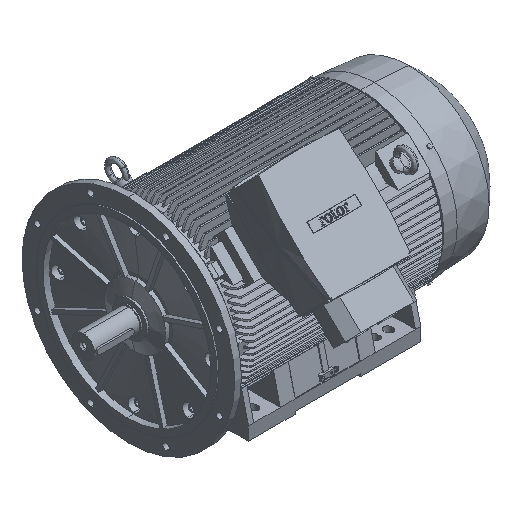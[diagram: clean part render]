
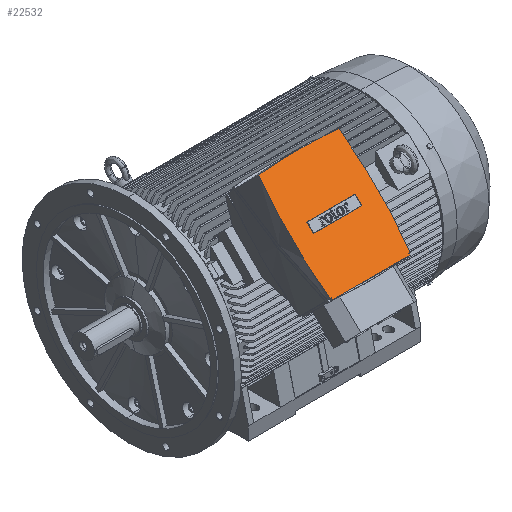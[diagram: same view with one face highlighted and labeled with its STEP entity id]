
A CAD part, isometric view. The second image highlights one B-rep face of the part: STEP entity #22532.
In plain terms, the highlighted planar face has unit normal (0, -0.707, 0.707).
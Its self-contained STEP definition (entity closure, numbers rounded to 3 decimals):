
#247 = VERTEX_POINT ( 'NONE', #4528 ) ;
#397 = DIRECTION ( 'NONE',  ( 0., 0.707, 0.707 ) ) ;
#435 = EDGE_CURVE ( 'NONE', #68464, #69646, #15696, .T. ) ;
#609 = VECTOR ( 'NONE', #70961, 1000. ) ;
#1436 = LINE ( 'NONE', #58119, #23227 ) ;
#1571 = CARTESIAN_POINT ( 'NONE',  ( 155., -416.486, 382.545 ) ) ;
#2633 = ORIENTED_EDGE ( 'NONE', *, *, #27151, .T. ) ;
#2803 = ORIENTED_EDGE ( 'NONE', *, *, #435, .F. ) ;
#3383 = DIRECTION ( 'NONE',  ( 0., 0.707, -0.707 ) ) ;
#3520 = VECTOR ( 'NONE', #31546, 1000. ) ;
#3892 = DIRECTION ( 'NONE',  ( 0., 0.707, 0.707 ) ) ;
#4528 = CARTESIAN_POINT ( 'NONE',  ( 335., -407.647, 391.384 ) ) ;
#4573 = EDGE_CURVE ( 'NONE', #20416, #26088, #51600, .T. ) ;
#5194 = CARTESIAN_POINT ( 'NONE',  ( 93.98, -285.778, 513.253 ) ) ;
#5916 = CARTESIAN_POINT ( 'NONE',  ( 155., -407.647, 391.384 ) ) ;
#6218 = CARTESIAN_POINT ( 'NONE',  ( 390., -558.614, 240.416 ) ) ;
#6622 = CARTESIAN_POINT ( 'NONE',  ( 396.02, -285.778, 513.253 ) ) ;
#6988 = VECTOR ( 'NONE', #37884, 1000. ) ;
#7464 = EDGE_CURVE ( 'NONE', #69646, #20416, #64328, .T. ) ;
#8794 = CIRCLE ( 'NONE', #25762, 2020.86 ) ;
#9498 = CARTESIAN_POINT ( 'NONE',  ( 245., -1710.746, -911.715 ) ) ;
#10744 = DIRECTION ( 'NONE',  ( 0., 0.707, 0.707 ) ) ;
#11189 = LINE ( 'NONE', #70210, #17615 ) ;
#11818 = DIRECTION ( 'NONE',  ( 0., -0.707, -0.707 ) ) ;
#13196 = CARTESIAN_POINT ( 'NONE',  ( -1318.3, -420.021, 379.009 ) ) ;
#13792 = VERTEX_POINT ( 'NONE', #6218 ) ;
#14276 = AXIS2_PLACEMENT_3D ( 'NONE', #22771, #46171, #397 ) ;
#14451 = ORIENTED_EDGE ( 'NONE', *, *, #7464, .F. ) ;
#15696 = CIRCLE ( 'NONE', #42130, 2020.86 ) ;
#16065 = VECTOR ( 'NONE', #55473, 1000. ) ;
#16288 = AXIS2_PLACEMENT_3D ( 'NONE', #74589, #68205, #39769 ) ;
#17354 = ORIENTED_EDGE ( 'NONE', *, *, #38575, .F. ) ;
#17615 = VECTOR ( 'NONE', #42035, 1000. ) ;
#18112 = VERTEX_POINT ( 'NONE', #71543 ) ;
#18696 = EDGE_CURVE ( 'NONE', #59168, #51761, #66099, .T. ) ;
#18799 = ORIENTED_EDGE ( 'NONE', *, *, #59043, .T. ) ;
#18993 = LINE ( 'NONE', #41496, #3520 ) ;
#20416 = VERTEX_POINT ( 'NONE', #44428 ) ;
#20443 = ORIENTED_EDGE ( 'NONE', *, *, #56414, .T. ) ;
#22532 = ADVANCED_FACE ( 'NONE', ( #70208, #55668 ), #28446, .T. ) ;
#22771 = CARTESIAN_POINT ( 'NONE',  ( 245., 870.703, 1669.734 ) ) ;
#23227 = VECTOR ( 'NONE', #11818, 1000. ) ;
#25762 = AXIS2_PLACEMENT_3D ( 'NONE', #56555, #62651, #10744 ) ;
#26088 = VERTEX_POINT ( 'NONE', #43476 ) ;
#27046 = CARTESIAN_POINT ( 'NONE',  ( 93.98, -554.265, 244.766 ) ) ;
#27151 = EDGE_CURVE ( 'NONE', #51761, #58020, #46984, .T. ) ;
#27229 = DIRECTION ( 'NONE',  ( 0., 0.707, -0.707 ) ) ;
#28446 = PLANE ( 'NONE',  #55766 ) ;
#31119 = EDGE_CURVE ( 'NONE', #52768, #68464, #8794, .T. ) ;
#31546 = DIRECTION ( 'NONE',  ( 0., -0.707, -0.707 ) ) ;
#31611 = EDGE_LOOP ( 'NONE', ( #20443, #18799, #65058, #14451, #2803, #44952, #17354, #63585, #49032 ) ) ;
#32693 = CARTESIAN_POINT ( 'NONE',  ( 335., -432.396, 366.635 ) ) ;
#34700 = LINE ( 'NONE', #72097, #39215 ) ;
#35330 = DIRECTION ( 'NONE',  ( 0., -0.707, -0.707 ) ) ;
#35482 = ORIENTED_EDGE ( 'NONE', *, *, #44761, .T. ) ;
#37091 = DIRECTION ( 'NONE',  ( 0., 0.707, 0.707 ) ) ;
#37884 = DIRECTION ( 'NONE',  ( -1., 0., 0. ) ) ;
#38121 = EDGE_CURVE ( 'NONE', #18112, #38950, #1436, .T. ) ;
#38575 = EDGE_CURVE ( 'NONE', #57716, #52768, #44521, .T. ) ;
#38950 = VERTEX_POINT ( 'NONE', #45329 ) ;
#39198 = DIRECTION ( 'NONE',  ( 0., 0.707, 0.707 ) ) ;
#39215 = VECTOR ( 'NONE', #66728, 1000. ) ;
#39769 = DIRECTION ( 'NONE',  ( 0., 0.707, 0.707 ) ) ;
#41312 = EDGE_LOOP ( 'NONE', ( #35482, #43080, #43278, #2633 ) ) ;
#41496 = CARTESIAN_POINT ( 'NONE',  ( 335., -416.486, 382.545 ) ) ;
#42035 = DIRECTION ( 'NONE',  ( 1., 0., 0. ) ) ;
#42130 = AXIS2_PLACEMENT_3D ( 'NONE', #9498, #3383, #3892 ) ;
#43080 = ORIENTED_EDGE ( 'NONE', *, *, #69674, .T. ) ;
#43278 = ORIENTED_EDGE ( 'NONE', *, *, #18696, .T. ) ;
#43476 = CARTESIAN_POINT ( 'NONE',  ( 390., -554.578, 244.453 ) ) ;
#44312 = CARTESIAN_POINT ( 'NONE',  ( 155., -432.396, 366.635 ) ) ;
#44428 = CARTESIAN_POINT ( 'NONE',  ( 396.02, -554.265, 244.766 ) ) ;
#44521 = CIRCLE ( 'NONE', #49699, 1724.8 ) ;
#44761 = EDGE_CURVE ( 'NONE', #58020, #247, #11189, .T. ) ;
#44952 = ORIENTED_EDGE ( 'NONE', *, *, #31119, .F. ) ;
#45329 = CARTESIAN_POINT ( 'NONE',  ( 100., -558.614, 240.416 ) ) ;
#46171 = DIRECTION ( 'NONE',  ( 0., 0.707, -0.707 ) ) ;
#46984 = LINE ( 'NONE', #1571, #609 ) ;
#49032 = ORIENTED_EDGE ( 'NONE', *, *, #38121, .T. ) ;
#49699 = AXIS2_PLACEMENT_3D ( 'NONE', #68140, #27229, #39198 ) ;
#51600 = CIRCLE ( 'NONE', #14276, 2020.86 ) ;
#51761 = VERTEX_POINT ( 'NONE', #44312 ) ;
#51780 = AXIS2_PLACEMENT_3D ( 'NONE', #13196, #53880, #37091 ) ;
#52768 = VERTEX_POINT ( 'NONE', #5194 ) ;
#53880 = DIRECTION ( 'NONE',  ( 0., 0.707, -0.707 ) ) ;
#55473 = DIRECTION ( 'NONE',  ( 1., 0., 0. ) ) ;
#55668 = FACE_OUTER_BOUND ( 'NONE', #31611, .T. ) ;
#55766 = AXIS2_PLACEMENT_3D ( 'NONE', #58251, #74977, #35330 ) ;
#56116 = EDGE_CURVE ( 'NONE', #18112, #57716, #64355, .T. ) ;
#56414 = EDGE_CURVE ( 'NONE', #38950, #13792, #67903, .T. ) ;
#56555 = CARTESIAN_POINT ( 'NONE',  ( 245., -1710.746, -911.715 ) ) ;
#57716 = VERTEX_POINT ( 'NONE', #27046 ) ;
#58020 = VERTEX_POINT ( 'NONE', #5916 ) ;
#58119 = CARTESIAN_POINT ( 'NONE',  ( 100., -554.578, 244.453 ) ) ;
#58251 = CARTESIAN_POINT ( 'NONE',  ( 245., -416.486, 382.545 ) ) ;
#59043 = EDGE_CURVE ( 'NONE', #13792, #26088, #34700, .T. ) ;
#59168 = VERTEX_POINT ( 'NONE', #32693 ) ;
#59377 = CARTESIAN_POINT ( 'NONE',  ( 245., -281.782, 517.249 ) ) ;
#61540 = CARTESIAN_POINT ( 'NONE',  ( 245., -432.396, 366.635 ) ) ;
#62651 = DIRECTION ( 'NONE',  ( 0., 0.707, -0.707 ) ) ;
#63585 = ORIENTED_EDGE ( 'NONE', *, *, #56116, .F. ) ;
#64328 = CIRCLE ( 'NONE', #51780, 1724.8 ) ;
#64355 = CIRCLE ( 'NONE', #16288, 2020.86 ) ;
#65058 = ORIENTED_EDGE ( 'NONE', *, *, #4573, .F. ) ;
#66099 = LINE ( 'NONE', #61540, #6988 ) ;
#66728 = DIRECTION ( 'NONE',  ( 0., 0.707, 0.707 ) ) ;
#67903 = LINE ( 'NONE', #71997, #16065 ) ;
#68140 = CARTESIAN_POINT ( 'NONE',  ( 1808.3, -420.021, 379.009 ) ) ;
#68205 = DIRECTION ( 'NONE',  ( 0., 0.707, -0.707 ) ) ;
#68464 = VERTEX_POINT ( 'NONE', #59377 ) ;
#69646 = VERTEX_POINT ( 'NONE', #6622 ) ;
#69674 = EDGE_CURVE ( 'NONE', #247, #59168, #18993, .T. ) ;
#70208 = FACE_BOUND ( 'NONE', #41312, .T. ) ;
#70210 = CARTESIAN_POINT ( 'NONE',  ( 245., -407.647, 391.384 ) ) ;
#70961 = DIRECTION ( 'NONE',  ( 0., 0.707, 0.707 ) ) ;
#71543 = CARTESIAN_POINT ( 'NONE',  ( 100., -554.578, 244.453 ) ) ;
#71997 = CARTESIAN_POINT ( 'NONE',  ( 245., -558.614, 240.416 ) ) ;
#72097 = CARTESIAN_POINT ( 'NONE',  ( 390., -558.614, 240.416 ) ) ;
#74589 = CARTESIAN_POINT ( 'NONE',  ( 245., 870.703, 1669.734 ) ) ;
#74977 = DIRECTION ( 'NONE',  ( 0., -0.707, 0.707 ) ) ;
